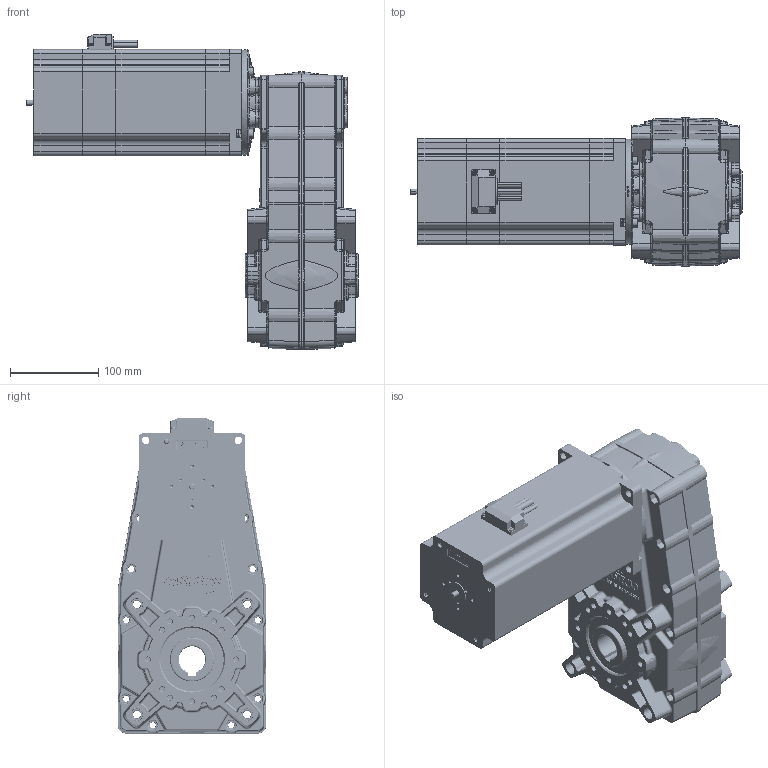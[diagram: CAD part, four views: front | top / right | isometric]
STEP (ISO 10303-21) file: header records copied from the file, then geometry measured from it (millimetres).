
FILE_DESCRIPTION (( 'STEP AP214' ), '1' );
FILE_NAME ('FT196+BL400.48.120.STEP', '2021-05-04T15:34:19', ( '' ), ( '' ), 'SwSTEP 2.0', 'SolidWorks 2020', '' );
FILE_SCHEMA (( 'AUTOMOTIVE_DESIGN' ));
Length unit declared in the file: millimetre
Products named in the file (11): FT196+BL400.48.120; FT1961230; 6SCHHM618ZC; W05004120; FT196151; FT19601_alleggerito; ANELLO AS AS507208; NBR_47x7_DTMK70499; BL400.48.120 INT; ANELLO AS AS304708; FT196_U_80B14_O30
Assembly tree (15 placements, depth 3):
  FT196+BL400.48.120
    FT196_U_80B14_O30
      ANELLO AS AS507208  x2
      W05004120
      FT19601_alleggerito  x2
      NBR_47x7_DTMK70499
      FT1961230
      ANELLO AS AS304708
      FT196151
    BL400.48.120 INT
    6SCHHM618ZC  x4
Bounding box: 376.5 x 168 x 357.35 mm (x, y, z)
Volume: 7114817.6 mm3; surface area: 717607.7 mm2
Topology: 18 solids, 21 shells, 5103 faces, 12406 edges, 7442 vertices
Faces by surface type: plane 1462, bspline 1220, cylinder 1173, cone 513, torus 459, sphere 276
Entity records: 122990 total; most frequent: CARTESIAN_POINT 52068, ORIENTED_EDGE 15330, DIRECTION 13417, EDGE_CURVE 7665, AXIS2_PLACEMENT_3D 5151, VERTEX_POINT 4694, EDGE_LOOP 3413, FACE_OUTER_BOUND 3170
